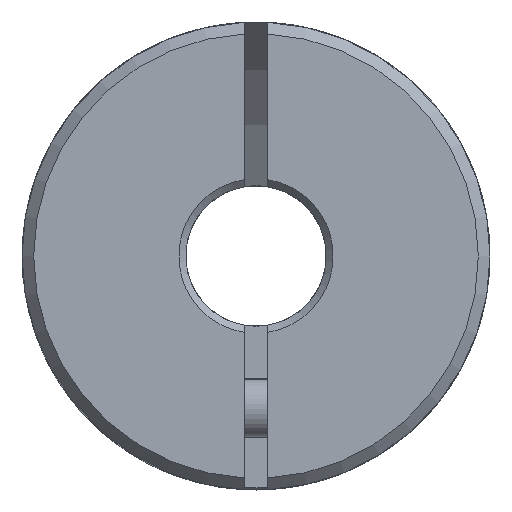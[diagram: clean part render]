
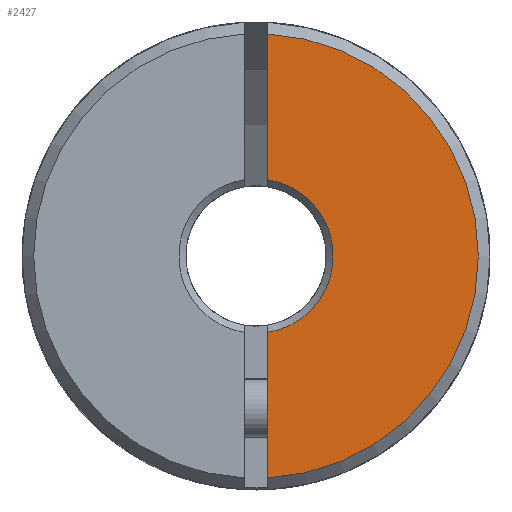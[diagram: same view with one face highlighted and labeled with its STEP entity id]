
A CAD part, front view. The second image highlights one B-rep face of the part: STEP entity #2427.
In plain terms, the highlighted planar face has unit normal (0, -1, 0).
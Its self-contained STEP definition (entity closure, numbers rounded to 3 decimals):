
#439 = AXIS2_PLACEMENT_3D ( 'NONE', #916, #2518, #5711 ) ;
#667 = CARTESIAN_POINT ( 'NONE',  ( 0.5, -33., -12.292 ) ) ;
#784 = DIRECTION ( 'NONE',  ( 0., 1., 0. ) ) ;
#901 = ORIENTED_EDGE ( 'NONE', *, *, #5811, .F. ) ;
#916 = CARTESIAN_POINT ( 'NONE',  ( 0., -33., 0. ) ) ;
#943 = VECTOR ( 'NONE', #7755, 1000. ) ;
#995 = EDGE_LOOP ( 'NONE', ( #901, #5361, #3779, #7612 ) ) ;
#1184 = CIRCLE ( 'NONE', #2117, 9.5 ) ;
#1514 = PLANE ( 'NONE',  #2698 ) ;
#1601 = CIRCLE ( 'NONE', #439, 3.3 ) ;
#1933 = DIRECTION ( 'NONE',  ( 0., 0., -1. ) ) ;
#2117 = AXIS2_PLACEMENT_3D ( 'NONE', #5826, #8955, #1933 ) ;
#2155 = VERTEX_POINT ( 'NONE', #4819 ) ;
#2336 = DIRECTION ( 'NONE',  ( 0., 0., -1. ) ) ;
#2427 = ADVANCED_FACE ( 'NONE', ( #3136 ), #1514, .F. ) ;
#2518 = DIRECTION ( 'NONE',  ( 0., 1., 0. ) ) ;
#2698 = AXIS2_PLACEMENT_3D ( 'NONE', #10263, #784, #2336 ) ;
#2775 = VERTEX_POINT ( 'NONE', #6038 ) ;
#3136 = FACE_OUTER_BOUND ( 'NONE', #995, .T. ) ;
#3594 = VERTEX_POINT ( 'NONE', #4375 ) ;
#3779 = ORIENTED_EDGE ( 'NONE', *, *, #8020, .F. ) ;
#3921 = LINE ( 'NONE', #667, #943 ) ;
#4375 = CARTESIAN_POINT ( 'NONE',  ( 0.5, -33., 3.262 ) ) ;
#4606 = CARTESIAN_POINT ( 'NONE',  ( 0.5, -33., -12.292 ) ) ;
#4819 = CARTESIAN_POINT ( 'NONE',  ( 0.5, -33., -9.487 ) ) ;
#5361 = ORIENTED_EDGE ( 'NONE', *, *, #6946, .T. ) ;
#5711 = DIRECTION ( 'NONE',  ( 0., 0., -1. ) ) ;
#5811 = EDGE_CURVE ( 'NONE', #2155, #2775, #5928, .T. ) ;
#5826 = CARTESIAN_POINT ( 'NONE',  ( 0., -33., 0. ) ) ;
#5928 = LINE ( 'NONE', #4606, #8419 ) ;
#6038 = CARTESIAN_POINT ( 'NONE',  ( 0.5, -33., -3.262 ) ) ;
#6946 = EDGE_CURVE ( 'NONE', #2155, #9212, #1184, .T. ) ;
#7009 = DIRECTION ( 'NONE',  ( 0., 0., 1. ) ) ;
#7612 = ORIENTED_EDGE ( 'NONE', *, *, #9507, .T. ) ;
#7755 = DIRECTION ( 'NONE',  ( 0., 0., 1. ) ) ;
#8020 = EDGE_CURVE ( 'NONE', #3594, #9212, #3921, .T. ) ;
#8278 = CARTESIAN_POINT ( 'NONE',  ( 0.5, -33., 9.487 ) ) ;
#8419 = VECTOR ( 'NONE', #7009, 1000. ) ;
#8955 = DIRECTION ( 'NONE',  ( 0., -1., 0. ) ) ;
#9212 = VERTEX_POINT ( 'NONE', #8278 ) ;
#9507 = EDGE_CURVE ( 'NONE', #3594, #2775, #1601, .T. ) ;
#10263 = CARTESIAN_POINT ( 'NONE',  ( 50., -33., -12.292 ) ) ;
